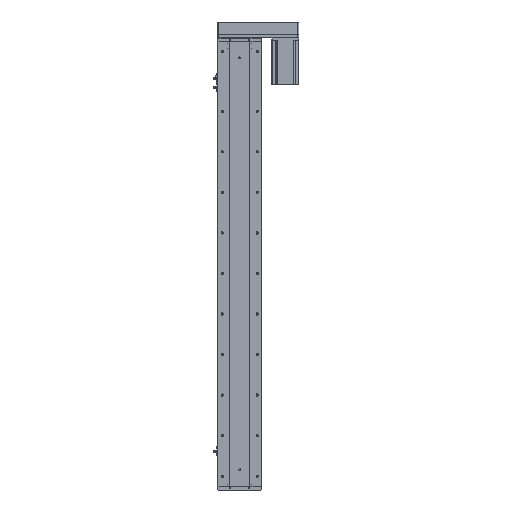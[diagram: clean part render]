
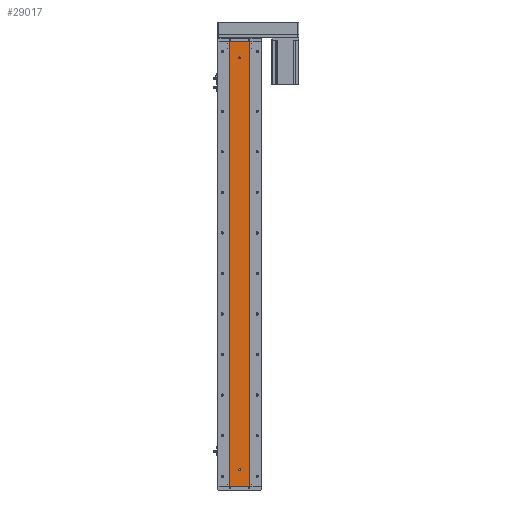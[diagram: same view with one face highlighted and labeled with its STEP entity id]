
A CAD part, left-side view. The second image highlights one B-rep face of the part: STEP entity #29017.
In plain terms, the highlighted planar face has unit normal (-1, 0, 0).
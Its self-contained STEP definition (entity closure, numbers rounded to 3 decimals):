
#131 = FACE_OUTER_BOUND ( 'NONE', #4414, .T. ) ;
#689 = DIRECTION ( 'NONE',  ( 1., 0., 0. ) ) ;
#898 = VERTEX_POINT ( 'NONE', #28618 ) ;
#910 = DIRECTION ( 'NONE',  ( 0., 0., 1. ) ) ;
#1923 = AXIS2_PLACEMENT_3D ( 'NONE', #11014, #38162, #14938 ) ;
#3769 = LINE ( 'NONE', #24075, #43821 ) ;
#4414 = EDGE_LOOP ( 'NONE', ( #14829, #12660, #6113, #37841 ) ) ;
#4439 = VECTOR ( 'NONE', #43497, 1000. ) ;
#5613 = VERTEX_POINT ( 'NONE', #46480 ) ;
#6105 = VERTEX_POINT ( 'NONE', #25912 ) ;
#6113 = ORIENTED_EDGE ( 'NONE', *, *, #43289, .F. ) ;
#9322 = EDGE_LOOP ( 'NONE', ( #37427, #10478 ) ) ;
#9665 = CARTESIAN_POINT ( 'NONE',  ( -24.994, 0., 53. ) ) ;
#10478 = ORIENTED_EDGE ( 'NONE', *, *, #30677, .F. ) ;
#10492 = FACE_BOUND ( 'NONE', #10561, .T. ) ;
#10561 = EDGE_LOOP ( 'NONE', ( #14473, #21546 ) ) ;
#11014 = CARTESIAN_POINT ( 'NONE',  ( -24.994, 0., 50. ) ) ;
#11019 = VERTEX_POINT ( 'NONE', #29417 ) ;
#11495 = AXIS2_PLACEMENT_3D ( 'NONE', #41545, #18333, #45466 ) ;
#12660 = ORIENTED_EDGE ( 'NONE', *, *, #29070, .F. ) ;
#14473 = ORIENTED_EDGE ( 'NONE', *, *, #35146, .F. ) ;
#14755 = LINE ( 'NONE', #31992, #4439 ) ;
#14829 = ORIENTED_EDGE ( 'NONE', *, *, #21944, .T. ) ;
#14938 = DIRECTION ( 'NONE',  ( 0., 0., 1. ) ) ;
#14947 = VERTEX_POINT ( 'NONE', #9665 ) ;
#16850 = CIRCLE ( 'NONE', #28637, 3. ) ;
#17498 = CARTESIAN_POINT ( 'NONE',  ( -24.994, 0., 1269. ) ) ;
#18178 = CIRCLE ( 'NONE', #36503, 3. ) ;
#18333 = DIRECTION ( 'NONE',  ( -1., 0., 0. ) ) ;
#19170 = VERTEX_POINT ( 'NONE', #47393 ) ;
#19362 = EDGE_CURVE ( 'NONE', #898, #19170, #16850, .T. ) ;
#20241 = EDGE_CURVE ( 'NONE', #11019, #5613, #38677, .T. ) ;
#21412 = DIRECTION ( 'NONE',  ( 0., 0., 1. ) ) ;
#21546 = ORIENTED_EDGE ( 'NONE', *, *, #44427, .F. ) ;
#21791 = AXIS2_PLACEMENT_3D ( 'NONE', #24014, #689, #27929 ) ;
#21944 = EDGE_CURVE ( 'NONE', #5613, #40934, #3769, .T. ) ;
#22530 = CIRCLE ( 'NONE', #11495, 3. ) ;
#22538 = CARTESIAN_POINT ( 'NONE',  ( -24.994, 29.785, 1319. ) ) ;
#24014 = CARTESIAN_POINT ( 'NONE',  ( -24.994, 29.785, 1319. ) ) ;
#24075 = CARTESIAN_POINT ( 'NONE',  ( -24.994, 29.785, 0. ) ) ;
#24241 = DIRECTION ( 'NONE',  ( -1., 0., 0. ) ) ;
#25758 = DIRECTION ( 'NONE',  ( 0., -1., 0. ) ) ;
#25912 = CARTESIAN_POINT ( 'NONE',  ( -24.994, -29.785, 1319. ) ) ;
#27773 = PLANE ( 'NONE',  #21791 ) ;
#27929 = DIRECTION ( 'NONE',  ( 0., 0., -1. ) ) ;
#28618 = CARTESIAN_POINT ( 'NONE',  ( -24.994, 0., 1272. ) ) ;
#28637 = AXIS2_PLACEMENT_3D ( 'NONE', #17498, #44651, #21412 ) ;
#29017 = ADVANCED_FACE ( 'NONE', ( #31169, #10492, #131 ), #27773, .F. ) ;
#29070 = EDGE_CURVE ( 'NONE', #6105, #40934, #14755, .T. ) ;
#29417 = CARTESIAN_POINT ( 'NONE',  ( -24.994, 29.785, 1319. ) ) ;
#30677 = EDGE_CURVE ( 'NONE', #19170, #898, #18178, .T. ) ;
#31169 = FACE_BOUND ( 'NONE', #9322, .T. ) ;
#31992 = CARTESIAN_POINT ( 'NONE',  ( -24.994, -29.785, 1319. ) ) ;
#34918 = CARTESIAN_POINT ( 'NONE',  ( -24.994, -29.785, 0. ) ) ;
#35146 = EDGE_CURVE ( 'NONE', #14947, #44658, #49400, .T. ) ;
#35763 = DIRECTION ( 'NONE',  ( 0., -1., 0. ) ) ;
#36503 = AXIS2_PLACEMENT_3D ( 'NONE', #47439, #24241, #910 ) ;
#37427 = ORIENTED_EDGE ( 'NONE', *, *, #19362, .F. ) ;
#37455 = VECTOR ( 'NONE', #49662, 1000. ) ;
#37841 = ORIENTED_EDGE ( 'NONE', *, *, #20241, .T. ) ;
#38162 = DIRECTION ( 'NONE',  ( -1., 0., 0. ) ) ;
#38677 = LINE ( 'NONE', #22538, #37455 ) ;
#39078 = LINE ( 'NONE', #45070, #48180 ) ;
#39180 = CARTESIAN_POINT ( 'NONE',  ( -24.994, 0., 47. ) ) ;
#40934 = VERTEX_POINT ( 'NONE', #34918 ) ;
#41545 = CARTESIAN_POINT ( 'NONE',  ( -24.994, 0., 50. ) ) ;
#43289 = EDGE_CURVE ( 'NONE', #11019, #6105, #39078, .T. ) ;
#43497 = DIRECTION ( 'NONE',  ( 0., 0., -1. ) ) ;
#43821 = VECTOR ( 'NONE', #35763, 1000. ) ;
#44427 = EDGE_CURVE ( 'NONE', #44658, #14947, #22530, .T. ) ;
#44651 = DIRECTION ( 'NONE',  ( -1., 0., 0. ) ) ;
#44658 = VERTEX_POINT ( 'NONE', #39180 ) ;
#45070 = CARTESIAN_POINT ( 'NONE',  ( -24.994, 29.785, 1319. ) ) ;
#45466 = DIRECTION ( 'NONE',  ( 0., 0., 1. ) ) ;
#46480 = CARTESIAN_POINT ( 'NONE',  ( -24.994, 29.785, 0. ) ) ;
#47393 = CARTESIAN_POINT ( 'NONE',  ( -24.994, 0., 1266. ) ) ;
#47439 = CARTESIAN_POINT ( 'NONE',  ( -24.994, 0., 1269. ) ) ;
#48180 = VECTOR ( 'NONE', #25758, 1000. ) ;
#49400 = CIRCLE ( 'NONE', #1923, 3. ) ;
#49662 = DIRECTION ( 'NONE',  ( 0., 0., -1. ) ) ;
